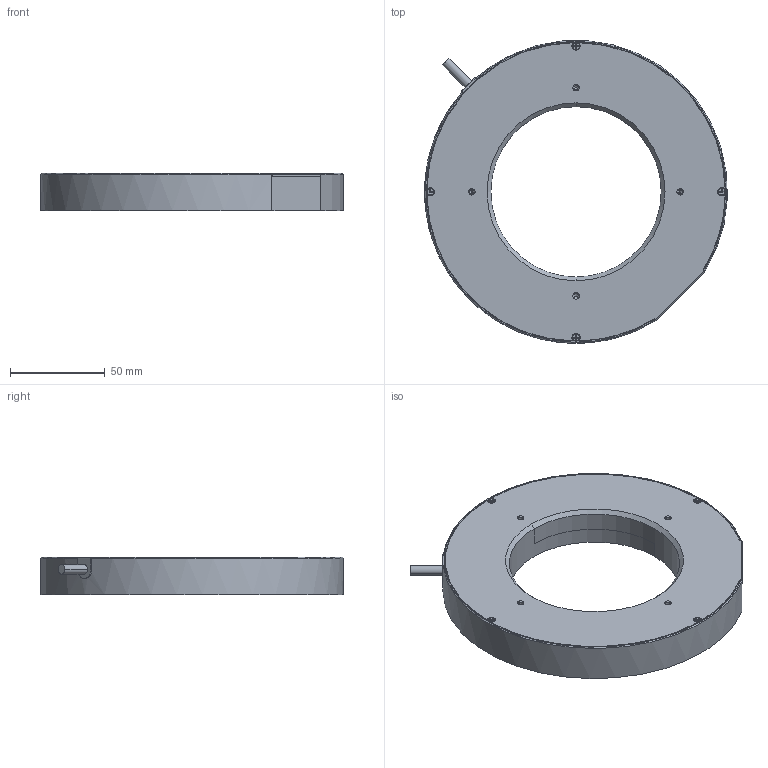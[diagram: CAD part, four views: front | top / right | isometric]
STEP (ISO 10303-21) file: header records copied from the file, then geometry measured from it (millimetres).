
FILE_DESCRIPTION((''),'2;1');
FILE_NAME('MV-LRDS-H-160-90-W','2022-09-02T16:08:49',('qiaoxuan5'),(''),'CREO PARAMETRIC BY PTC INC, 2020044','CREO PARAMETRIC BY PTC INC, 2020044','');
FILE_SCHEMA(('CONFIG_CONTROL_DESIGN'));
Length unit declared in the file: metre
Products named in the file (1): MV-LRDS-H-160-90-W
Bounding box: 159.89 x 159.73 x 20 mm (x, y, z)
Volume: 272021.6 mm3; surface area: 51150.9 mm2
Topology: 1 solids, 17 shells, 536 faces, 1281 edges, 751 vertices
Faces by surface type: plane 263, cylinder 152, cone 94, torus 21, sphere 6
Entity records: 15418 total; most frequent: CARTESIAN_POINT 3082, DIRECTION 2624, ORIENTED_EDGE 2502, EDGE_CURVE 1251, AXIS2_PLACEMENT_3D 945, VERTEX_POINT 751, VECTOR 734, LINE 734
